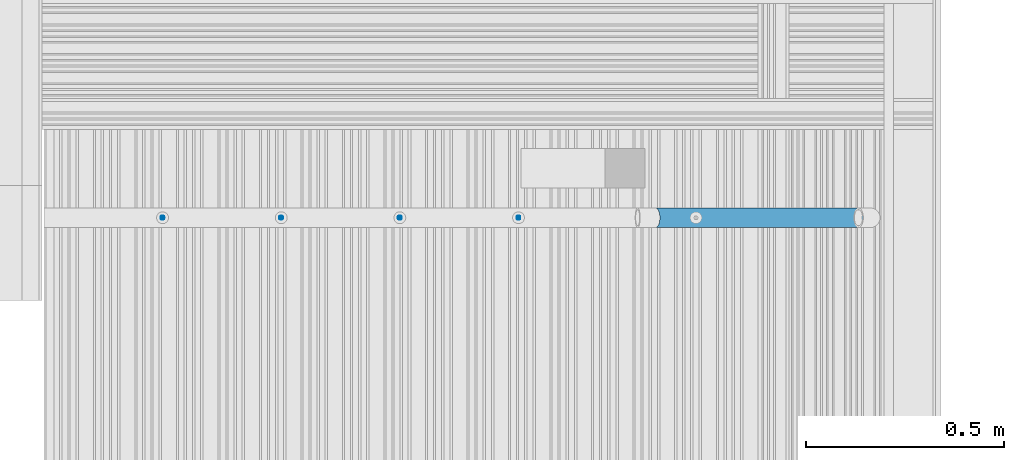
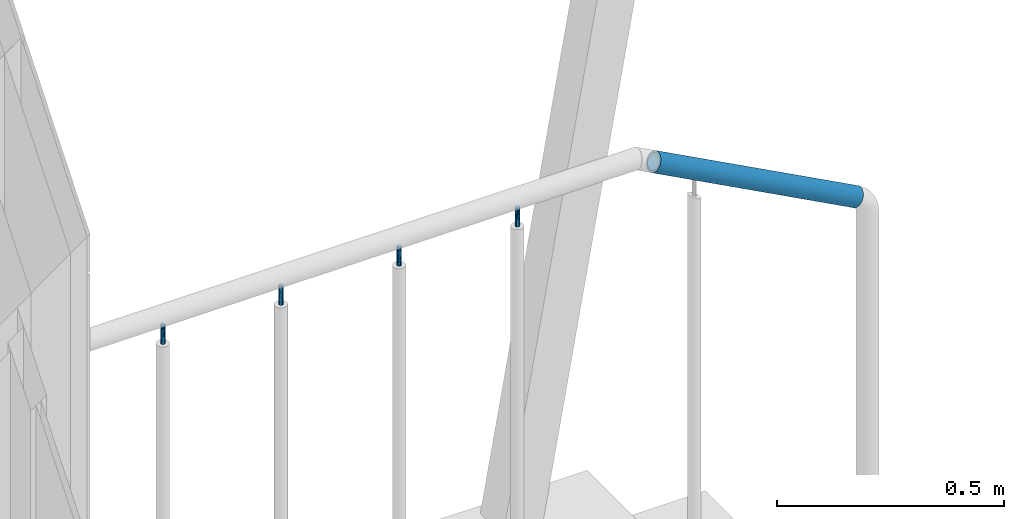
# One storey, part 151 of 418: 2 building element parts, 3 elements without a shape of their own.
"""IFC2X3 building model written with IfcOpenShell, lengths in millimetres."""

from ifc_helpers import new_model, entity, si_unit, converted_unit, derived_unit, money_unit, direction, frame, origin_with_axes, place, context, subcontext, project, spatial, faceted_brep, material, type_object, element, aggregate, save


model = new_model("IFC2X3")

# Units and contexts
model_context = context("Model", 3, precision=0.01, world=origin_with_axes(), true_north=direction((0.0, 1.0)))
body_context = subcontext(model_context, "Body", "Model", "MODEL_VIEW")
ifc_project = project(units=[si_unit("LENGTHUNIT", "METRE", prefix="MILLI"), si_unit("AREAUNIT", "SQUARE_METRE"), si_unit("VOLUMEUNIT", "CUBIC_METRE"), converted_unit("PLANEANGLEUNIT", "DEGREE", entity("IfcPlaneAngleMeasure", 0.0174532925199), si_unit("PLANEANGLEUNIT", "RADIAN"), dimensions=[0, 0, 0, 0, 0, 0, 0]), si_unit("SOLIDANGLEUNIT", "STERADIAN"), money_unit("EUR"), converted_unit("TIMEUNIT", "Year", entity("IfcTimeMeasure", 31556926.0), si_unit("TIMEUNIT", "SECOND"), dimensions=[0, 0, 1, 0, 0, 0, 0]), si_unit("MASSUNIT", "GRAM", prefix="KILO"), si_unit("THERMODYNAMICTEMPERATUREUNIT", "DEGREE_CELSIUS"), si_unit("LUMINOUSINTENSITYUNIT", "LUMEN"), si_unit("ENERGYUNIT", "JOULE", prefix="MEGA"), derived_unit("THERMALCONDUCTANCEUNIT", [(si_unit("POWERUNIT", "WATT"), 1), (si_unit("LENGTHUNIT", "METRE"), -1), (si_unit("THERMODYNAMICTEMPERATUREUNIT", "KELVIN"), -1)]), derived_unit("SPECIFICHEATCAPACITYUNIT", [(si_unit("ENERGYUNIT", "JOULE"), 1), (si_unit("MASSUNIT", "GRAM", prefix="KILO"), -1), (si_unit("THERMODYNAMICTEMPERATUREUNIT", "KELVIN"), -1)]), derived_unit("MASSDENSITYUNIT", [(si_unit("MASSUNIT", "GRAM", prefix="KILO"), 1), (si_unit("VOLUMEUNIT", "CUBIC_METRE"), -1)])], contexts=[model_context])

# Site, building, storey
site_placement = place(None, origin_with_axes())
site = spatial("IfcSite", under=ifc_project, at=site_placement, Name="Paldiski mnt 245/1, Tallinn, Harjumaa", CompositionType="COMPLEX")
building_placement = place(site_placement, origin_with_axes())
building = spatial("IfcBuilding", under=site, at=building_placement, Name="RKAS Hoone üldnimetus (kasutust iseloomustav) -> IFC Project Manager -> SOLIBRI", CompositionType="ELEMENT")
storey_placement = place(building_placement, origin_with_axes())
storey = spatial("IfcBuildingStorey", under=building, at=storey_placement, Name="Esimene korrus", CompositionType="ELEMENT", Elevation=0.0)

# Proxies, building element parts
building_element_proxy_type_1 = type_object("IfcBuildingElementProxyType", Name="Railing Type", PredefinedType="NOTDEFINED")
proxy_1_placement = place(storey_placement, frame((-46765.0, 8168.75490532, -321.218687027), z_axis=(0.0, 0.0, 1.0), x_axis=(1.0, 0.0, 0.0)))
proxy_1 = element("IfcBuildingElementProxy", 1, at=proxy_1_placement, inside=storey, type_object=building_element_proxy_type_1, Name="Trepipiire")
building_element_proxy_type_2 = type_object("IfcBuildingElementProxyType", Name="IfcBuildingElementProxy", PredefinedType="NOTDEFINED")
proxy_2_placement = place(proxy_1_placement, frame((753.737126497, 0.0, 1245.31698759), z_axis=(0.0, 0.0, 1.0), x_axis=(1.0, 0.0, 0.0)))
proxy_2 = element("IfcBuildingElementProxy", 2, at=proxy_2_placement, type_object=building_element_proxy_type_2, Name="ÜL PIIRE - 001")
ifc_material_1 = material(Name="Teras - Konstruktsioon")
building_element_part_1_placement = place(proxy_2_placement, origin_with_axes())
building_element_part_1 = element("IfcBuildingElementPart", 3, at=building_element_part_1_placement, material=ifc_material_1, Name="Teras - Konstruktsioon", context=body_context, shape_type="Brep", body=[
    faceted_brep([(-458.737126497, 0.0, -44.0983005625), (-458.661165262, -0.868240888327, -44.0983005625), (-458.661165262, -0.868240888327, 5.90169943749), (-458.737126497, 0.0, 5.90169943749), (-458.661165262, 0.868240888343, -44.0983005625), (-458.435589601, 1.71010071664, -44.0983005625), (-458.067253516, 2.50000000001, -44.0983005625), (-457.567348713, 3.21393804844, -44.0983005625), (-456.951064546, 3.8302222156, -44.0983005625), (-456.237126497, 4.33012701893, -44.0983005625), (-455.447227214, 4.69846310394, -44.0983005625), (-454.605367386, 4.92403876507, -44.0983005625), (-453.737126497, 5.00000000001, -44.0983005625), (-452.868885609, 4.92403876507, -44.0983005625), (-452.027025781, 4.69846310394, -44.0983005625), (-451.237126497, 4.33012701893, -44.0983005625), (-450.523188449, 3.8302222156, -44.0983005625), (-449.906904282, 3.21393804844, -44.0983005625), (-449.406999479, 2.50000000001, -44.0983005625), (-449.038663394, 1.71010071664, -44.0983005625), (-448.813087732, 0.868240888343, -44.0983005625), (-448.737126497, 0.0, -44.0983005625), (-448.813087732, -0.868240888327, -44.0983005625), (-449.038663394, -1.71010071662, -44.0983005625), (-449.406999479, -2.49999999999, -44.0983005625), (-449.906904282, -3.21393804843, -44.0983005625), (-450.523188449, -3.83022221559, -44.0983005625), (-451.237126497, -4.33012701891, -44.0983005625), (-452.027025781, -4.69846310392, -44.0983005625), (-452.868885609, -4.92403876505, -44.0983005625), (-453.737126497, -4.99999999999, -44.0983005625), (-454.605367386, -4.92403876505, -44.0983005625), (-455.447227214, -4.69846310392, -44.0983005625), (-456.237126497, -4.33012701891, -44.0983005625), (-456.951064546, -3.83022221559, -44.0983005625), (-457.567348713, -3.21393804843, -44.0983005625), (-458.067253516, -2.49999999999, -44.0983005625), (-458.435589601, -1.71010071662, -44.0983005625), (-458.435589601, -1.71010071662, 5.90169943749), (-458.067253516, -2.49999999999, 5.90169943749), (-457.567348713, -3.21393804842, 5.90169943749), (-456.951064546, -3.83022221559, 5.90169943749), (-456.237126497, -4.33012701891, 5.90169943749), (-455.447227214, -4.69846310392, 5.90169943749), (-454.605367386, -4.92403876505, 5.90169943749), (-453.737126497, -4.99999999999, 5.90169943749), (-452.868885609, -4.92403876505, 5.90169943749), (-452.027025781, -4.69846310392, 5.90169943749), (-451.237126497, -4.33012701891, 5.90169943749), (-450.523188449, -3.83022221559, 5.90169943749), (-449.906904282, -3.21393804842, 5.90169943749), (-449.406999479, -2.49999999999, 5.90169943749), (-449.038663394, -1.71010071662, 5.90169943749), (-448.813087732, -0.868240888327, 5.90169943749), (-448.737126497, 0.0, 5.90169943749), (-448.813087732, 0.868240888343, 5.90169943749), (-449.038663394, 1.71010071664, 5.90169943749), (-449.406999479, 2.50000000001, 5.90169943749), (-449.906904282, 3.21393804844, 5.90169943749), (-450.523188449, 3.8302222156, 5.90169943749), (-451.237126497, 4.33012701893, 5.90169943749), (-452.027025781, 4.69846310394, 5.90169943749), (-452.868885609, 4.92403876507, 5.90169943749), (-453.737126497, 5.00000000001, 5.90169943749), (-454.605367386, 4.92403876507, 5.90169943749), (-455.447227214, 4.69846310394, 5.90169943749), (-456.237126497, 4.33012701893, 5.90169943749), (-456.951064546, 3.8302222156, 5.90169943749), (-457.567348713, 3.21393804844, 5.90169943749), (-458.067253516, 2.50000000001, 5.90169943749), (-458.435589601, 1.71010071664, 5.90169943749), (-458.661165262, 0.868240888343, 5.90169943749)], [[[0, 1, 2, 3]], [[0, 4, 5, 6, 7, 8, 9, 10, 11, 12, 13, 14, 15, 16, 17, 18, 19, 20, 21, 22, 23, 24, 25, 26, 27, 28, 29, 30, 31, 32, 33, 34, 35, 36, 37, 1]], [[1, 37, 38, 2]], [[3, 2, 38, 39, 40, 41, 42, 43, 44, 45, 46, 47, 48, 49, 50, 51, 52, 53, 54, 55, 56, 57, 58, 59, 60, 61, 62, 63, 64, 65, 66, 67, 68, 69, 70, 71]], [[4, 0, 3, 71]], [[5, 4, 71, 70]], [[6, 5, 70, 69]], [[7, 6, 69, 68]], [[8, 7, 68, 67]], [[9, 8, 67, 66]], [[10, 9, 66, 65]], [[11, 10, 65, 64]], [[12, 11, 64, 63]], [[13, 12, 63, 62]], [[14, 13, 62, 61]], [[15, 14, 61, 60]], [[16, 15, 60, 59]], [[17, 16, 59, 58]], [[18, 17, 58, 57]], [[19, 18, 57, 56]], [[20, 19, 56, 55]], [[21, 20, 55, 54]], [[22, 21, 54, 53]], [[23, 22, 53, 52]], [[24, 23, 52, 51]], [[25, 24, 51, 50]], [[26, 25, 50, 49]], [[27, 26, 49, 48]], [[28, 27, 48, 47]], [[29, 28, 47, 46]], [[30, 29, 46, 45]], [[31, 30, 45, 44]], [[32, 31, 44, 43]], [[33, 32, 43, 42]], [[34, 33, 42, 41]], [[35, 34, 41, 40]], [[36, 35, 40, 39]], [[37, 36, 39, 38]]]),
    faceted_brep([(-158.737126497, 0.0, -44.0983005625), (-158.661165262, -0.868240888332, -44.0983005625), (-158.661165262, -0.868240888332, 5.90169943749), (-158.737126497, 0.0, 5.90169943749), (-158.661165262, 0.868240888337, -44.0983005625), (-158.435589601, 1.71010071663, -44.0983005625), (-158.067253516, 2.5, -44.0983005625), (-157.567348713, 3.21393804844, -44.0983005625), (-156.951064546, 3.8302222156, -44.0983005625), (-156.237126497, 4.33012701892, -44.0983005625), (-155.447227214, 4.69846310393, -44.0983005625), (-154.605367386, 4.92403876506, -44.0983005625), (-153.737126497, 5.0, -44.0983005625), (-152.868885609, 4.92403876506, -44.0983005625), (-152.027025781, 4.69846310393, -44.0983005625), (-151.237126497, 4.33012701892, -44.0983005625), (-150.523188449, 3.8302222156, -44.0983005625), (-149.906904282, 3.21393804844, -44.0983005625), (-149.406999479, 2.5, -44.0983005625), (-149.038663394, 1.71010071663, -44.0983005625), (-148.813087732, 0.868240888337, -44.0983005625), (-148.737126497, 0.0, -44.0983005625), (-148.813087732, -0.868240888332, -44.0983005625), (-149.038663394, -1.71010071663, -44.0983005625), (-149.406999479, -2.5, -44.0983005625), (-149.906904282, -3.21393804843, -44.0983005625), (-150.523188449, -3.83022221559, -44.0983005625), (-151.237126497, -4.33012701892, -44.0983005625), (-152.027025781, -4.69846310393, -44.0983005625), (-152.868885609, -4.92403876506, -44.0983005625), (-153.737126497, -5.0, -44.0983005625), (-154.605367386, -4.92403876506, -44.0983005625), (-155.447227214, -4.69846310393, -44.0983005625), (-156.237126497, -4.33012701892, -44.0983005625), (-156.951064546, -3.83022221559, -44.0983005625), (-157.567348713, -3.21393804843, -44.0983005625), (-158.067253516, -2.5, -44.0983005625), (-158.435589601, -1.71010071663, -44.0983005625), (-158.435589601, -1.71010071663, 5.90169943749), (-158.067253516, -2.5, 5.90169943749), (-157.567348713, -3.21393804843, 5.90169943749), (-156.951064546, -3.83022221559, 5.90169943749), (-156.237126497, -4.33012701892, 5.90169943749), (-155.447227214, -4.69846310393, 5.90169943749), (-154.605367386, -4.92403876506, 5.90169943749), (-153.737126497, -5.0, 5.90169943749), (-152.868885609, -4.92403876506, 5.90169943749), (-152.027025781, -4.69846310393, 5.90169943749), (-151.237126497, -4.33012701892, 5.90169943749), (-150.523188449, -3.83022221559, 5.90169943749), (-149.906904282, -3.21393804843, 5.90169943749), (-149.406999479, -2.5, 5.90169943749), (-149.038663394, -1.71010071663, 5.90169943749), (-148.813087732, -0.868240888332, 5.90169943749), (-148.737126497, 0.0, 5.90169943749), (-148.813087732, 0.868240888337, 5.90169943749), (-149.038663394, 1.71010071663, 5.90169943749), (-149.406999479, 2.5, 5.90169943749), (-149.906904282, 3.21393804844, 5.90169943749), (-150.523188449, 3.8302222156, 5.90169943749), (-151.237126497, 4.33012701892, 5.90169943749), (-152.027025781, 4.69846310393, 5.90169943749), (-152.868885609, 4.92403876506, 5.90169943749), (-153.737126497, 5.0, 5.90169943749), (-154.605367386, 4.92403876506, 5.90169943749), (-155.447227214, 4.69846310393, 5.90169943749), (-156.237126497, 4.33012701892, 5.90169943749), (-156.951064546, 3.8302222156, 5.90169943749), (-157.567348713, 3.21393804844, 5.90169943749), (-158.067253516, 2.5, 5.90169943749), (-158.435589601, 1.71010071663, 5.90169943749), (-158.661165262, 0.868240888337, 5.90169943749)], [[[0, 1, 2, 3]], [[0, 4, 5, 6, 7, 8, 9, 10, 11, 12, 13, 14, 15, 16, 17, 18, 19, 20, 21, 22, 23, 24, 25, 26, 27, 28, 29, 30, 31, 32, 33, 34, 35, 36, 37, 1]], [[1, 37, 38, 2]], [[3, 2, 38, 39, 40, 41, 42, 43, 44, 45, 46, 47, 48, 49, 50, 51, 52, 53, 54, 55, 56, 57, 58, 59, 60, 61, 62, 63, 64, 65, 66, 67, 68, 69, 70, 71]], [[4, 0, 3, 71]], [[5, 4, 71, 70]], [[6, 5, 70, 69]], [[7, 6, 69, 68]], [[8, 7, 68, 67]], [[9, 8, 67, 66]], [[10, 9, 66, 65]], [[11, 10, 65, 64]], [[12, 11, 64, 63]], [[13, 12, 63, 62]], [[14, 13, 62, 61]], [[15, 14, 61, 60]], [[16, 15, 60, 59]], [[17, 16, 59, 58]], [[18, 17, 58, 57]], [[19, 18, 57, 56]], [[20, 19, 56, 55]], [[21, 20, 55, 54]], [[22, 21, 54, 53]], [[23, 22, 53, 52]], [[24, 23, 52, 51]], [[25, 24, 51, 50]], [[26, 25, 50, 49]], [[27, 26, 49, 48]], [[28, 27, 48, 47]], [[29, 28, 47, 46]], [[30, 29, 46, 45]], [[31, 30, 45, 44]], [[32, 31, 44, 43]], [[33, 32, 43, 42]], [[34, 33, 42, 41]], [[35, 34, 41, 40]], [[36, 35, 40, 39]], [[37, 36, 39, 38]]]),
    faceted_brep([(141.262873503, 0.0, -44.0983005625), (141.338834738, -0.868240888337, -44.0983005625), (141.338834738, -0.868240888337, 5.90169943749), (141.262873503, 0.0, 5.90169943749), (141.338834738, 0.868240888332, -44.0983005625), (141.564410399, 1.71010071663, -44.0983005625), (141.932746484, 2.5, -44.0983005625), (142.432651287, 3.21393804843, -44.0983005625), (143.048935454, 3.83022221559, -44.0983005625), (143.762873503, 4.33012701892, -44.0983005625), (144.552772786, 4.69846310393, -44.0983005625), (145.394632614, 4.92403876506, -44.0983005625), (146.262873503, 5.0, -44.0983005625), (147.131114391, 4.92403876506, -44.0983005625), (147.972974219, 4.69846310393, -44.0983005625), (148.762873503, 4.33012701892, -44.0983005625), (149.476811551, 3.83022221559, -44.0983005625), (150.093095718, 3.21393804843, -44.0983005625), (150.593000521, 2.5, -44.0983005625), (150.961336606, 1.71010071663, -44.0983005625), (151.186912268, 0.868240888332, -44.0983005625), (151.262873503, 0.0, -44.0983005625), (151.186912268, -0.868240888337, -44.0983005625), (150.961336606, -1.71010071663, -44.0983005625), (150.593000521, -2.5, -44.0983005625), (150.093095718, -3.21393804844, -44.0983005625), (149.476811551, -3.8302222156, -44.0983005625), (148.762873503, -4.33012701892, -44.0983005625), (147.972974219, -4.69846310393, -44.0983005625), (147.131114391, -4.92403876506, -44.0983005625), (146.262873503, -5.0, -44.0983005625), (145.394632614, -4.92403876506, -44.0983005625), (144.552772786, -4.69846310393, -44.0983005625), (143.762873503, -4.33012701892, -44.0983005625), (143.048935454, -3.8302222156, -44.0983005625), (142.432651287, -3.21393804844, -44.0983005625), (141.932746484, -2.5, -44.0983005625), (141.564410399, -1.71010071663, -44.0983005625), (141.564410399, -1.71010071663, 5.90169943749), (141.932746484, -2.5, 5.90169943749), (142.432651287, -3.21393804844, 5.90169943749), (143.048935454, -3.8302222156, 5.90169943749), (143.762873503, -4.33012701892, 5.90169943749), (144.552772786, -4.69846310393, 5.90169943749), (145.394632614, -4.92403876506, 5.90169943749), (146.262873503, -5.0, 5.90169943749), (147.131114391, -4.92403876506, 5.90169943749), (147.972974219, -4.69846310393, 5.90169943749), (148.762873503, -4.33012701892, 5.90169943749), (149.476811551, -3.8302222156, 5.90169943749), (150.093095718, -3.21393804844, 5.90169943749), (150.593000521, -2.5, 5.90169943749), (150.961336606, -1.71010071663, 5.90169943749), (151.186912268, -0.868240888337, 5.90169943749), (151.262873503, 0.0, 5.90169943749), (151.186912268, 0.868240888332, 5.90169943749), (150.961336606, 1.71010071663, 5.90169943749), (150.593000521, 2.5, 5.90169943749), (150.093095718, 3.21393804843, 5.90169943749), (149.476811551, 3.83022221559, 5.90169943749), (148.762873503, 4.33012701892, 5.90169943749), (147.972974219, 4.69846310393, 5.90169943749), (147.131114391, 4.92403876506, 5.90169943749), (146.262873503, 5.0, 5.90169943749), (145.394632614, 4.92403876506, 5.90169943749), (144.552772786, 4.69846310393, 5.90169943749), (143.762873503, 4.33012701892, 5.90169943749), (143.048935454, 3.83022221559, 5.90169943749), (142.432651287, 3.21393804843, 5.90169943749), (141.932746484, 2.5, 5.90169943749), (141.564410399, 1.71010071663, 5.90169943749), (141.338834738, 0.868240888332, 5.90169943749)], [[[0, 1, 2, 3]], [[0, 4, 5, 6, 7, 8, 9, 10, 11, 12, 13, 14, 15, 16, 17, 18, 19, 20, 21, 22, 23, 24, 25, 26, 27, 28, 29, 30, 31, 32, 33, 34, 35, 36, 37, 1]], [[1, 37, 38, 2]], [[3, 2, 38, 39, 40, 41, 42, 43, 44, 45, 46, 47, 48, 49, 50, 51, 52, 53, 54, 55, 56, 57, 58, 59, 60, 61, 62, 63, 64, 65, 66, 67, 68, 69, 70, 71]], [[4, 0, 3, 71]], [[5, 4, 71, 70]], [[6, 5, 70, 69]], [[7, 6, 69, 68]], [[8, 7, 68, 67]], [[9, 8, 67, 66]], [[10, 9, 66, 65]], [[11, 10, 65, 64]], [[12, 11, 64, 63]], [[13, 12, 63, 62]], [[14, 13, 62, 61]], [[15, 14, 61, 60]], [[16, 15, 60, 59]], [[17, 16, 59, 58]], [[18, 17, 58, 57]], [[19, 18, 57, 56]], [[20, 19, 56, 55]], [[21, 20, 55, 54]], [[22, 21, 54, 53]], [[23, 22, 53, 52]], [[24, 23, 52, 51]], [[25, 24, 51, 50]], [[26, 25, 50, 49]], [[27, 26, 49, 48]], [[28, 27, 48, 47]], [[29, 28, 47, 46]], [[30, 29, 46, 45]], [[31, 30, 45, 44]], [[32, 31, 44, 43]], [[33, 32, 43, 42]], [[34, 33, 42, 41]], [[35, 34, 41, 40]], [[36, 35, 40, 39]], [[37, 36, 39, 38]]]),
    faceted_brep([(441.262873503, 0.0, -44.0983005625), (441.338834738, -0.868240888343, -44.0983005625), (441.338834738, -0.868240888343, 5.90169943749), (441.262873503, 0.0, 5.90169943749), (441.338834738, 0.868240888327, -44.0983005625), (441.564410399, 1.71010071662, -44.0983005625), (441.932746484, 2.49999999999, -44.0983005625), (442.432651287, 3.21393804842, -44.0983005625), (443.048935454, 3.83022221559, -44.0983005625), (443.762873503, 4.33012701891, -44.0983005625), (444.552772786, 4.69846310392, -44.0983005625), (445.394632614, 4.92403876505, -44.0983005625), (446.262873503, 4.99999999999, -44.0983005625), (447.131114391, 4.92403876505, -44.0983005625), (447.972974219, 4.69846310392, -44.0983005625), (448.762873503, 4.33012701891, -44.0983005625), (449.476811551, 3.83022221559, -44.0983005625), (450.093095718, 3.21393804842, -44.0983005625), (450.593000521, 2.49999999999, -44.0983005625), (450.961336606, 1.71010071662, -44.0983005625), (451.186912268, 0.868240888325, -44.0983005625), (451.262873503, 0.0, -44.0983005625), (451.186912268, -0.868240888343, -44.0983005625), (450.961336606, -1.71010071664, -44.0983005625), (450.593000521, -2.50000000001, -44.0983005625), (450.093095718, -3.21393804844, -44.0983005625), (449.476811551, -3.8302222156, -44.0983005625), (448.762873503, -4.33012701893, -44.0983005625), (447.972974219, -4.69846310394, -44.0983005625), (447.131114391, -4.92403876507, -44.0983005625), (446.262873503, -5.00000000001, -44.0983005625), (445.394632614, -4.92403876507, -44.0983005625), (444.552772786, -4.69846310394, -44.0983005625), (443.762873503, -4.33012701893, -44.0983005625), (443.048935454, -3.8302222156, -44.0983005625), (442.432651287, -3.21393804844, -44.0983005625), (441.932746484, -2.50000000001, -44.0983005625), (441.564410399, -1.71010071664, -44.0983005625), (441.564410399, -1.71010071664, 5.90169943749), (441.932746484, -2.50000000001, 5.90169943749), (442.432651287, -3.21393804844, 5.90169943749), (443.048935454, -3.8302222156, 5.90169943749), (443.762873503, -4.33012701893, 5.90169943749), (444.552772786, -4.69846310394, 5.90169943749), (445.394632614, -4.92403876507, 5.90169943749), (446.262873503, -5.00000000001, 5.90169943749), (447.131114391, -4.92403876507, 5.90169943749), (447.972974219, -4.69846310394, 5.90169943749), (448.762873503, -4.33012701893, 5.90169943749), (449.476811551, -3.8302222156, 5.90169943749), (450.093095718, -3.21393804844, 5.90169943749), (450.593000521, -2.50000000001, 5.90169943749), (450.961336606, -1.71010071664, 5.90169943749), (451.186912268, -0.868240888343, 5.90169943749), (451.262873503, 0.0, 5.90169943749), (451.186912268, 0.868240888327, 5.90169943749), (450.961336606, 1.71010071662, 5.90169943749), (450.593000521, 2.49999999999, 5.90169943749), (450.093095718, 3.21393804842, 5.90169943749), (449.476811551, 3.83022221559, 5.90169943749), (448.762873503, 4.33012701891, 5.90169943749), (447.972974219, 4.69846310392, 5.90169943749), (447.131114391, 4.92403876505, 5.90169943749), (446.262873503, 4.99999999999, 5.90169943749), (445.394632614, 4.92403876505, 5.90169943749), (444.552772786, 4.69846310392, 5.90169943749), (443.762873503, 4.33012701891, 5.90169943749), (443.048935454, 3.83022221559, 5.90169943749), (442.432651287, 3.21393804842, 5.90169943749), (441.932746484, 2.49999999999, 5.90169943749), (441.564410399, 1.71010071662, 5.90169943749), (441.338834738, 0.868240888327, 5.90169943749)], [[[0, 1, 2, 3]], [[0, 4, 5, 6, 7, 8, 9, 10, 11, 12, 13, 14, 15, 16, 17, 18, 19, 20, 21, 22, 23, 24, 25, 26, 27, 28, 29, 30, 31, 32, 33, 34, 35, 36, 37, 1]], [[1, 37, 38, 2]], [[3, 2, 38, 39, 40, 41, 42, 43, 44, 45, 46, 47, 48, 49, 50, 51, 52, 53, 54, 55, 56, 57, 58, 59, 60, 61, 62, 63, 64, 65, 66, 67, 68, 69, 70, 71]], [[4, 0, 3, 71]], [[5, 4, 71, 70]], [[6, 5, 70, 69]], [[7, 6, 69, 68]], [[8, 7, 68, 67]], [[9, 8, 67, 66]], [[10, 9, 66, 65]], [[11, 10, 65, 64]], [[12, 11, 64, 63]], [[13, 12, 63, 62]], [[14, 13, 62, 61]], [[15, 14, 61, 60]], [[16, 15, 60, 59]], [[17, 16, 59, 58]], [[18, 17, 58, 57]], [[19, 18, 57, 56]], [[20, 19, 56, 55]], [[21, 20, 55, 54]], [[22, 21, 54, 53]], [[23, 22, 53, 52]], [[24, 23, 52, 51]], [[25, 24, 51, 50]], [[26, 25, 50, 49]], [[27, 26, 49, 48]], [[28, 27, 48, 47]], [[29, 28, 47, 46]], [[30, 29, 46, 45]], [[31, 30, 45, 44]], [[32, 31, 44, 43]], [[33, 32, 43, 42]], [[34, 33, 42, 41]], [[35, 34, 41, 40]], [[36, 35, 40, 39]], [[37, 36, 39, 38]]]),
])
aggregate(proxy_2, [building_element_part_1])
proxy_3_placement = place(proxy_1_placement, frame((1814.75833535, 0.0, 944.098300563), z_axis=(0.0, 0.0, 1.0), x_axis=(1.0, 0.0, 0.0)))
proxy_3 = element("IfcBuildingElementProxy", 4, at=proxy_3_placement, type_object=building_element_proxy_type_2, Name="ÜL PIIRE - 001")
aggregate(proxy_1, [proxy_2, proxy_3])
ifc_material_2 = material(Name="RAL7016")
building_element_part_2_placement = place(proxy_3_placement, origin_with_axes())
building_element_part_2 = element("IfcBuildingElementPart", 5, at=building_element_part_2_placement, material=ifc_material_2, Name="RAL7016", context=body_context, shape_type="Brep", body=[
    faceted_brep([(-259.54896699, -3.55978764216, 326.198448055), (-259.402362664, 0.0, 326.473225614), (255.012491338, 0.0, 52.0132461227), (254.855276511, -3.55978764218, 51.7441296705), (-257.462868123, -4.34120444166, 330.108381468), (-257.284082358, 0.0, 330.443476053), (-257.462868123, 4.34120444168, 330.108381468), (-257.993793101, 8.55050358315, 329.113279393), (-258.860725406, 12.5, 327.488405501), (-260.037323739, 16.0696902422, 325.283130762), (-261.487837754, 19.151111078, 322.564461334), (-263.168194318, 21.6506350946, 319.415002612), (-265.027336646, 23.4923155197, 315.930449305), (-267.008775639, 24.6201938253, 312.216677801), (-269.052306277, 25.0, 308.38652917), (-271.095836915, 24.6201938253, 304.556380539), (-273.077275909, 23.4923155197, 300.842609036), (-274.936418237, 21.6506350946, 297.358055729), (-276.6167748, 19.151111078, 294.208597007), (-278.067288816, 16.0696902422, 291.489927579), (-279.243887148, 12.5, 289.28465284), (-280.110819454, 8.55050358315, 287.659778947), (-280.641744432, 4.34120444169, 286.664676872), (-280.820530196, 0.0, 286.329582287), (-280.641744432, -4.34120444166, 286.664676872), (-280.110819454, -8.55050358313, 287.659778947), (-279.243887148, -12.5, 289.28465284), (-278.067288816, -16.0696902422, 291.489927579), (-276.6167748, -19.151111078, 294.208597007), (-274.936418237, -21.6506350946, 297.358055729), (-273.077275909, -23.4923155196, 300.842609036), (-271.095836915, -24.6201938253, 304.556380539), (-269.052306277, -25.0, 308.38652917), (-267.008775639, -24.6201938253, 312.216677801), (-265.027336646, -23.4923155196, 315.930449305), (-263.168194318, -21.6506350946, 319.415002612), (-261.487837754, -19.151111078, 322.564461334), (-260.037323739, -16.0696902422, 325.283130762), (-258.860725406, -12.5, 327.488405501), (-257.993793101, -8.55050358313, 329.113279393), (-259.54896699, 3.55978764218, 326.198448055), (-259.984325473, -7.01141293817, 325.382464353), (-260.695209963, -10.25, 324.050067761), (-261.660020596, -13.1771459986, 322.241742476), (-262.849442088, -15.7039110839, 320.012433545), (-264.22733447, -17.7535207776, 317.429877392), (-265.751831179, -19.2636987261, 314.57254368), (-267.376611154, -20.1885589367, 311.527251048), (-269.052306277, -20.5, 308.38652917), (-270.7280014, -20.1885589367, 305.245807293), (-272.352781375, -19.2636987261, 302.20051466), (-273.877278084, -17.7535207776, 299.343180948), (-275.255170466, -15.7039110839, 296.760624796), (-276.444591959, -13.1771459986, 294.531315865), (-277.409402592, -10.25, 292.722990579), (-278.120287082, -7.01141293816, 291.390593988), (-278.555645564, -3.55978764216, 290.574610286), (-278.702249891, 0.0, 290.299832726), (-278.555645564, 3.55978764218, 290.574610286), (-278.120287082, 7.01141293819, 291.390593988), (-277.409402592, 10.25, 292.722990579), (-276.444591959, 13.1771459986, 294.531315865), (-275.255170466, 15.7039110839, 296.760624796), (-273.877278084, 17.7535207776, 299.343180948), (-272.352781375, 19.2636987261, 302.20051466), (-270.7280014, 20.1885589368, 305.245807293), (-269.052306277, 20.5, 308.38652917), (-267.376611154, 20.1885589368, 311.527251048), (-265.751831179, 19.2636987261, 314.57254368), (-264.22733447, 17.7535207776, 317.429877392), (-262.849442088, 15.7039110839, 320.012433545), (-261.660020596, 13.1771459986, 322.241742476), (-260.695209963, 10.25, 324.050067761), (-259.984325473, 7.01141293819, 325.382464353), (254.855276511, 3.55978764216, 51.7441296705), (238.354157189, 21.6506350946, 23.4979218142), (240.347855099, 23.4923155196, 26.9106845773), (242.472700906, 24.6201938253, 30.5479430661), (244.664132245, 25.0, 34.299181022), (246.855563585, 24.6201938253, 38.0504189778), (248.980409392, 23.4923155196, 41.6876774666), (250.974107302, 21.6506350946, 45.1004402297), (252.776079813, 19.151111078, 48.1850121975), (254.331574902, 16.0696902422, 50.8476702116), (255.593329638, 12.5, 53.0075107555), (256.523006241, 8.55050358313, 54.5989081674), (257.092356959, 4.34120444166, 55.5735086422), (257.284082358, 0.0, 55.9016994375), (257.092356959, -4.34120444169, 55.5735086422), (256.523006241, -8.55050358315, 54.5989081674), (255.593329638, -12.5, 53.0075107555), (254.331574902, -16.0696902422, 50.8476702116), (252.776079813, -19.151111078, 48.1850121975), (250.974107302, -21.6506350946, 45.1004402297), (248.980409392, -23.4923155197, 41.6876774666), (246.855563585, -24.6201938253, 38.0504189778), (244.664132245, -25.0, 34.299181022), (242.472700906, -24.6201938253, 30.5479430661), (240.347855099, -23.4923155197, 26.9106845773), (238.354157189, -21.6506350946, 23.4979218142), (236.552184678, -19.151111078, 20.4133498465), (234.996689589, -16.0696902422, 17.7506918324), (233.734934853, -12.5, 15.5908512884), (232.80525825, -8.55050358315, 13.9994538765), (232.235907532, -4.34120444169, 13.0248534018), (232.044182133, 0.0, 12.6966626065), (232.235907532, 4.34120444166, 13.0248534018), (232.80525825, 8.55050358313, 13.9994538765), (233.734934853, 12.5, 15.5908512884), (234.996689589, 16.0696902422, 17.7506918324), (236.552184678, 19.151111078, 20.4133498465), (249.838311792, 17.7535207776, 43.1562135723), (248.203479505, 19.2636987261, 40.3577481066), (246.461105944, 20.1885589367, 37.3751961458), (244.664132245, 20.5, 34.299181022), (242.867158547, 20.1885589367, 31.2231658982), (241.124784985, 19.2636987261, 28.2406139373), (239.489952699, 17.7535207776, 25.4421484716), (238.01233524, 15.7039110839, 22.912799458), (236.736829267, 13.1771459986, 20.7294198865), (235.702190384, 10.25, 18.9583506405), (234.939855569, 7.01141293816, 17.6534047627), (234.47298798, 3.55978764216, 16.8542323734), (234.315773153, 0.0, 16.5851159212), (234.47298798, -3.55978764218, 16.8542323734), (234.939855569, -7.01141293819, 17.6534047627), (235.702190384, -10.25, 18.9583506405), (236.736829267, -13.1771459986, 20.7294198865), (238.01233524, -15.703911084, 22.912799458), (239.489952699, -17.7535207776, 25.4421484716), (241.124784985, -19.2636987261, 28.2406139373), (242.867158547, -20.1885589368, 31.2231658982), (244.664132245, -20.5, 34.299181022), (246.461105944, -20.1885589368, 37.3751961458), (248.203479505, -19.2636987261, 40.3577481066), (249.838311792, -17.7535207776, 43.1562135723), (251.315929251, -15.703911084, 45.6855625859), (252.591435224, -13.1771459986, 47.8689421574), (253.626074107, -10.25, 49.6400114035), (254.388408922, -7.01141293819, 50.9449572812), (254.388408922, 7.01141293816, 50.9449572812), (253.626074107, 10.25, 49.6400114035), (252.591435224, 13.1771459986, 47.8689421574), (251.315929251, 15.7039110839, 45.6855625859)], [[[0, 1, 2, 3]], [[4, 5, 6, 7, 8, 9, 10, 11, 12, 13, 14, 15, 16, 17, 18, 19, 20, 21, 22, 23, 24, 25, 26, 27, 28, 29, 30, 31, 32, 33, 34, 35, 36, 37, 38, 39], [40, 1, 0, 41, 42, 43, 44, 45, 46, 47, 48, 49, 50, 51, 52, 53, 54, 55, 56, 57, 58, 59, 60, 61, 62, 63, 64, 65, 66, 67, 68, 69, 70, 71, 72, 73]], [[1, 40, 74, 2]], [[75, 76, 77, 78, 79, 80, 81, 82, 83, 84, 85, 86, 87, 88, 89, 90, 91, 92, 93, 94, 95, 96, 97, 98, 99, 100, 101, 102, 103, 104, 105, 106, 107, 108, 109, 110], [111, 112, 113, 114, 115, 116, 117, 118, 119, 120, 121, 122, 123, 124, 125, 126, 127, 128, 129, 130, 131, 132, 133, 134, 135, 136, 137, 138, 139, 3, 2, 74, 140, 141, 142, 143]], [[41, 0, 3, 139]], [[5, 4, 88, 87]], [[6, 5, 87, 86]], [[7, 6, 86, 85]], [[8, 7, 85, 84]], [[9, 8, 84, 83]], [[10, 9, 83, 82]], [[11, 10, 82, 81]], [[12, 11, 81, 80]], [[13, 12, 80, 79]], [[14, 13, 79, 78]], [[15, 14, 78, 77]], [[16, 15, 77, 76]], [[17, 16, 76, 75]], [[18, 17, 75, 110]], [[19, 18, 110, 109]], [[20, 19, 109, 108]], [[21, 20, 108, 107]], [[22, 21, 107, 106]], [[23, 22, 106, 105]], [[24, 23, 105, 104]], [[25, 24, 104, 103]], [[26, 25, 103, 102]], [[27, 26, 102, 101]], [[28, 27, 101, 100]], [[29, 28, 100, 99]], [[30, 29, 99, 98]], [[31, 30, 98, 97]], [[32, 31, 97, 96]], [[33, 32, 96, 95]], [[34, 33, 95, 94]], [[35, 34, 94, 93]], [[36, 35, 93, 92]], [[37, 36, 92, 91]], [[38, 37, 91, 90]], [[39, 38, 90, 89]], [[4, 39, 89, 88]], [[42, 41, 139, 138]], [[43, 42, 138, 137]], [[44, 43, 137, 136]], [[45, 44, 136, 135]], [[46, 45, 135, 134]], [[47, 46, 134, 133]], [[48, 47, 133, 132]], [[49, 48, 132, 131]], [[50, 49, 131, 130]], [[51, 50, 130, 129]], [[52, 51, 129, 128]], [[53, 52, 128, 127]], [[54, 53, 127, 126]], [[55, 54, 126, 125]], [[56, 55, 125, 124]], [[57, 56, 124, 123]], [[58, 57, 123, 122]], [[59, 58, 122, 121]], [[60, 59, 121, 120]], [[61, 60, 120, 119]], [[62, 61, 119, 118]], [[63, 62, 118, 117]], [[64, 63, 117, 116]], [[65, 64, 116, 115]], [[66, 65, 115, 114]], [[67, 66, 114, 113]], [[68, 67, 113, 112]], [[69, 68, 112, 111]], [[70, 69, 111, 143]], [[71, 70, 143, 142]], [[72, 71, 142, 141]], [[73, 72, 141, 140]], [[40, 73, 140, 74]]]),
])
aggregate(proxy_3, [building_element_part_2])

save(model, "model.ifc")
